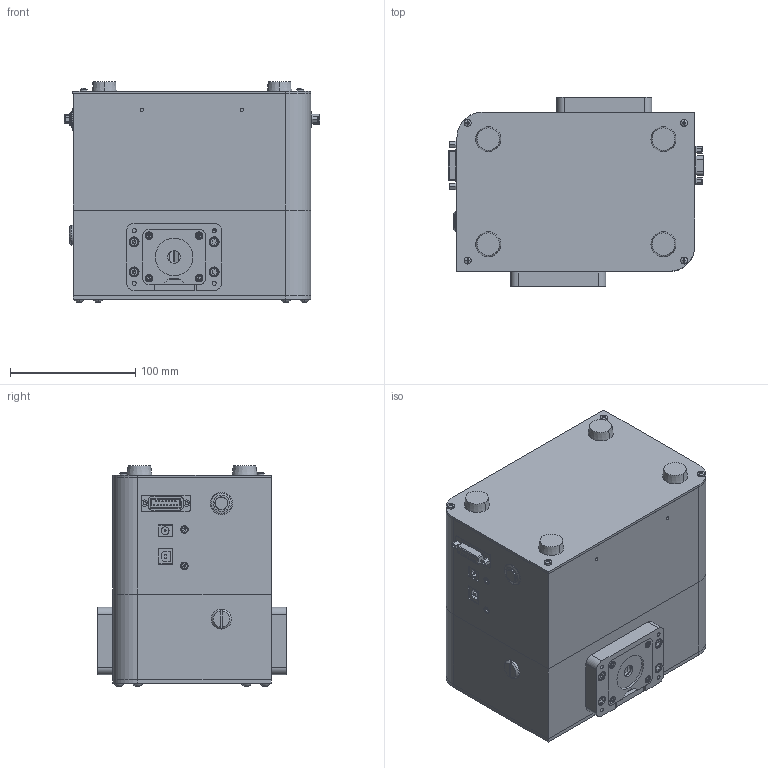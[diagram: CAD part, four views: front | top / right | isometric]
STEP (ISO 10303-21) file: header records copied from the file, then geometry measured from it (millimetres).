
FILE_DESCRIPTION (( 'STEP AP203' ), '1' );
FILE_NAME ('7IMS1021B单光栅扫描单色仪.STEP', '2021-01-12T05:56:21', ( '' ), ( '' ), 'SwSTEP 2.0', 'SolidWorks 2018', '' );
FILE_SCHEMA (( 'CONFIG_CONTROL_DESIGN' ));
Length unit declared in the file: millimetre
Products named in the file (1): 7IMS1021B单光栅扫描单色仪
Bounding box: 203.8 x 151 x 176.2 mm (x, y, z)
Surface area: 209101.7 mm2 (no closed solid volume)
Topology: 0 solids, 74 shells, 746 faces, 2441 edges, 1719 vertices
Faces by surface type: plane 416, cylinder 201, cone 56, torus 49, sphere 24
Entity records: 26755 total; most frequent: CARTESIAN_POINT 5049, DIRECTION 4821, ORIENTED_EDGE 3756, EDGE_CURVE 2415, VERTEX_POINT 1719, AXIS2_PLACEMENT_3D 1699, VECTOR 1423, LINE 1423
